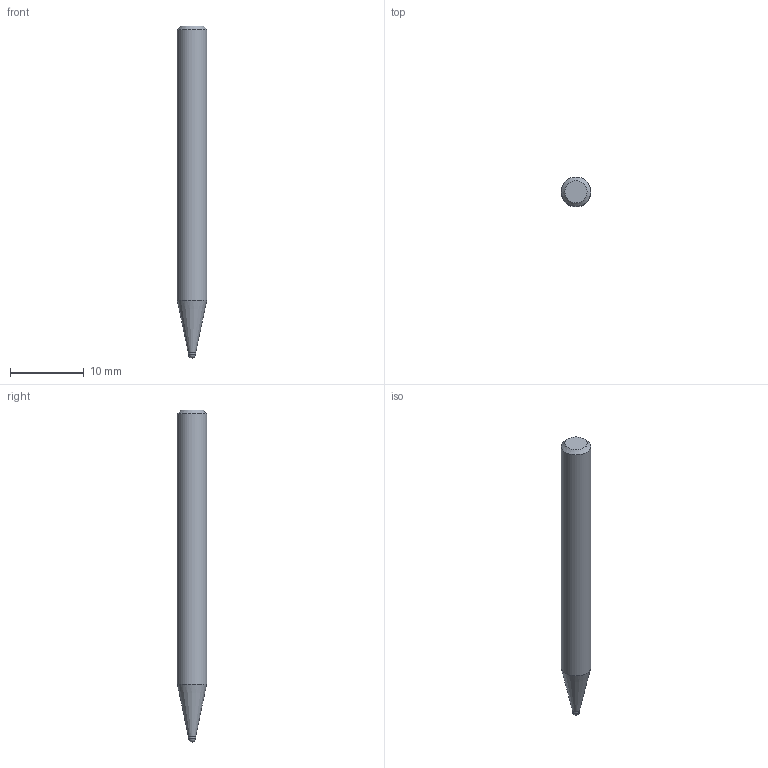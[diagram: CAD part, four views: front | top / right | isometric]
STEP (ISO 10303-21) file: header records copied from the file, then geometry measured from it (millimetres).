
FILE_DESCRIPTION((''),'2;1');
FILE_NAME('C:\Users\nsx150\AppData\Local\Temp\Mastercam 2021\ARV7HD45SN\TEMP.step','2023-06-13T16:35:12',(''),(''),'STEP Write','Mastercam 2021 ... CNC Software, Inc.','');
FILE_SCHEMA(('AUTOMOTIVE_DESIGN'));
Length unit declared in the file: millimetre
Products named in the file (1): None
Bounding box: 4 x 4 x 45 mm (x, y, z)
Volume: 505.2 mm3; surface area: 536.5 mm2
Topology: 2 solids, 2 shells, 8 faces, 12 edges, 7 vertices
Faces by surface type: plane 3, cylinder 2, cone 2, sphere 1
Full cylindrical faces by diameter (mm): 1 x1, 4 x1
Entity records: 190 total; most frequent: DIRECTION 32, CARTESIAN_POINT 22, AXIS2_PLACEMENT_3D 16, ORIENTED_EDGE 12, EDGE_LOOP 12, STYLED_ITEM 11, ADVANCED_FACE 8, VERTEX_POINT 6
